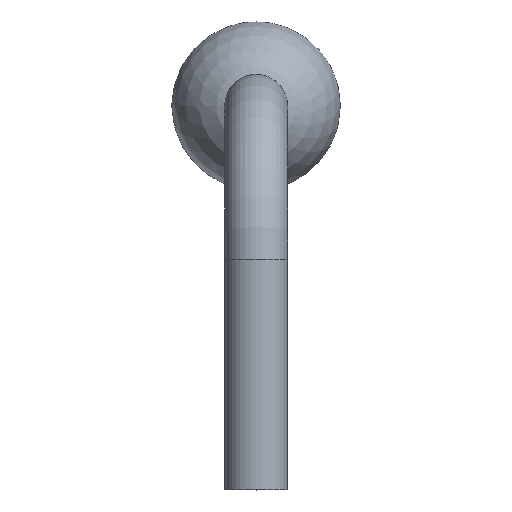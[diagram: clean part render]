
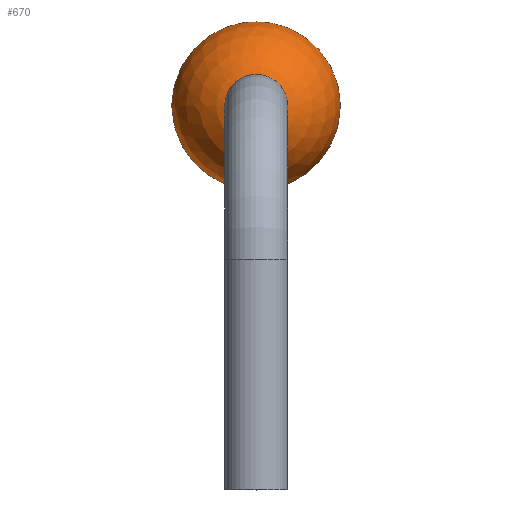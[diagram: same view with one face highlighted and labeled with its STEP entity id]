
A CAD part, left-side view. The second image highlights one B-rep face of the part: STEP entity #670.
In plain terms, the highlighted spherical face has radius 1.102 mm.
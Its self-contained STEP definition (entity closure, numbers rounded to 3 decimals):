
#599 = SURFACE_OF_REVOLUTION('',#600,#605);
#600 = CIRCLE('',#601,1.926);
#601 = AXIS2_PLACEMENT_3D('',#602,#603,#604);
#602 = CARTESIAN_POINT('',(-0.936,2.806,0.));
#603 = DIRECTION('',(0.,0.,-1.));
#604 = DIRECTION('',(-1.,-0.,-0.));
#605 = AXIS1_PLACEMENT('',#606,#607);
#606 = CARTESIAN_POINT('',(0.,0.,0.));
#607 = DIRECTION('',(1.,0.,0.));
#620 = VERTEX_POINT('',#621);
#621 = CARTESIAN_POINT('',(-1.659,1.021,0.));
#643 = EDGE_CURVE('',#620,#620,#644,.T.);
#644 = SURFACE_CURVE('',#645,(#650,#657),.PCURVE_S1.);
#645 = CIRCLE('',#646,1.021);
#646 = AXIS2_PLACEMENT_3D('',#647,#648,#649);
#647 = CARTESIAN_POINT('',(-1.659,0.,0.));
#648 = DIRECTION('',(1.,0.,0.));
#649 = DIRECTION('',(0.,1.,0.));
#650 = PCURVE('',#599,#651);
#651 = DEFINITIONAL_REPRESENTATION('',(#652),#656);
#652 = LINE('',#653,#654);
#653 = CARTESIAN_POINT('',(0.,5.097));
#654 = VECTOR('',#655,1.);
#655 = DIRECTION('',(1.,0.));
#656 = ( GEOMETRIC_REPRESENTATION_CONTEXT(2) 
PARAMETRIC_REPRESENTATION_CONTEXT() REPRESENTATION_CONTEXT('2D SPACE',''
  ) );
#657 = PCURVE('',#658,#663);
#658 = SPHERICAL_SURFACE('',#659,1.102);
#659 = AXIS2_PLACEMENT_3D('',#660,#661,#662);
#660 = CARTESIAN_POINT('',(-2.073,0.,0.));
#661 = DIRECTION('',(1.,0.,0.));
#662 = DIRECTION('',(0.,1.,0.));
#663 = DEFINITIONAL_REPRESENTATION('',(#664),#668);
#664 = LINE('',#665,#666);
#665 = CARTESIAN_POINT('',(0.,0.385));
#666 = VECTOR('',#667,1.);
#667 = DIRECTION('',(1.,0.));
#668 = ( GEOMETRIC_REPRESENTATION_CONTEXT(2) 
PARAMETRIC_REPRESENTATION_CONTEXT() REPRESENTATION_CONTEXT('2D SPACE',''
  ) );
#670 = ADVANCED_FACE('',(#671),#658,.T.);
#671 = FACE_BOUND('',#672,.T.);
#672 = EDGE_LOOP('',(#673,#697,#698));
#673 = ORIENTED_EDGE('',*,*,#674,.T.);
#674 = EDGE_CURVE('',#675,#620,#677,.T.);
#675 = VERTEX_POINT('',#676);
#676 = CARTESIAN_POINT('',(-3.175,0.,0.));
#677 = SEAM_CURVE('',#678,(#683,#690),.PCURVE_S1.);
#678 = CIRCLE('',#679,1.102);
#679 = AXIS2_PLACEMENT_3D('',#680,#681,#682);
#680 = CARTESIAN_POINT('',(-2.073,0.,0.));
#681 = DIRECTION('',(0.,0.,-1.));
#682 = DIRECTION('',(-1.,-0.,-0.));
#683 = PCURVE('',#658,#684);
#684 = DEFINITIONAL_REPRESENTATION('',(#685),#689);
#685 = LINE('',#686,#687);
#686 = CARTESIAN_POINT('',(0.,-1.571));
#687 = VECTOR('',#688,1.);
#688 = DIRECTION('',(0.,1.));
#689 = ( GEOMETRIC_REPRESENTATION_CONTEXT(2) 
PARAMETRIC_REPRESENTATION_CONTEXT() REPRESENTATION_CONTEXT('2D SPACE',''
  ) );
#690 = PCURVE('',#658,#691);
#691 = DEFINITIONAL_REPRESENTATION('',(#692),#696);
#692 = LINE('',#693,#694);
#693 = CARTESIAN_POINT('',(6.283,-1.571));
#694 = VECTOR('',#695,1.);
#695 = DIRECTION('',(0.,1.));
#696 = ( GEOMETRIC_REPRESENTATION_CONTEXT(2) 
PARAMETRIC_REPRESENTATION_CONTEXT() REPRESENTATION_CONTEXT('2D SPACE',''
  ) );
#697 = ORIENTED_EDGE('',*,*,#643,.F.);
#698 = ORIENTED_EDGE('',*,*,#674,.F.);
